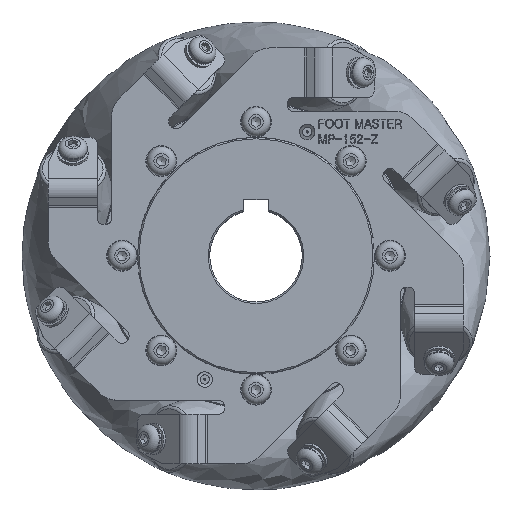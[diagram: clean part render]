
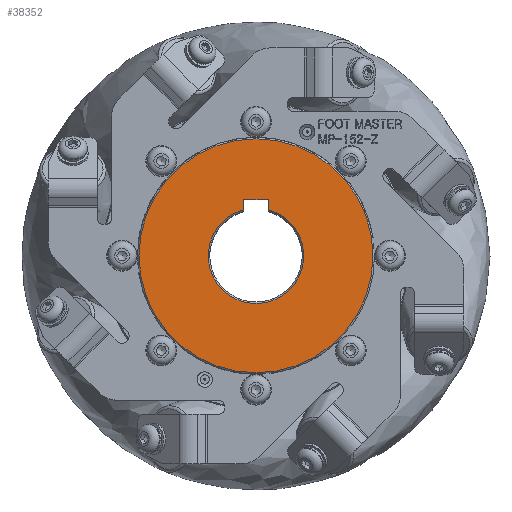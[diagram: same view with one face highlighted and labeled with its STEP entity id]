
A CAD part, top view. The second image highlights one B-rep face of the part: STEP entity #38352.
In plain terms, the highlighted planar face has unit normal (0, 0, 1).
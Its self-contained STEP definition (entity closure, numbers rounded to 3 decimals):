
#1711=CIRCLE('',#40727,15.5);
#1712=CIRCLE('',#40729,38.);
#2685=FACE_BOUND('',#6888,.T.);
#4604=FACE_OUTER_BOUND('',#6887,.T.);
#6887=EDGE_LOOP('',(#31395));
#6888=EDGE_LOOP('',(#31396,#31397,#31398,#31399));
#10749=LINE('',#65521,#13445);
#10752=LINE('',#65531,#13448);
#10756=LINE('',#65545,#13452);
#13445=VECTOR('',#46991,10.);
#13448=VECTOR('',#46996,10.);
#13452=VECTOR('',#47002,10.);
#17145=VERTEX_POINT('',#65516);
#17146=VERTEX_POINT('',#65520);
#17149=VERTEX_POINT('',#65530);
#17151=VERTEX_POINT('',#65536);
#17153=VERTEX_POINT('',#65549);
#22155=EDGE_CURVE('',#17146,#17145,#10749,.T.);
#22159=EDGE_CURVE('',#17149,#17146,#10752,.T.);
#22165=EDGE_CURVE('',#17151,#17149,#10756,.T.);
#22166=EDGE_CURVE('',#17151,#17145,#1711,.T.);
#22167=EDGE_CURVE('',#17153,#17153,#1712,.T.);
#31395=ORIENTED_EDGE('',*,*,#22167,.F.);
#31396=ORIENTED_EDGE('',*,*,#22166,.F.);
#31397=ORIENTED_EDGE('',*,*,#22165,.T.);
#31398=ORIENTED_EDGE('',*,*,#22159,.T.);
#31399=ORIENTED_EDGE('',*,*,#22155,.T.);
#36599=PLANE('',#40728);
#38352=ADVANCED_FACE('',(#4604,#2685),#36599,.T.);
#40727=AXIS2_PLACEMENT_3D('',#65547,#47005,#47006);
#40728=AXIS2_PLACEMENT_3D('',#65548,#47007,#47008);
#40729=AXIS2_PLACEMENT_3D('',#65550,#47009,#47010);
#46991=DIRECTION('',(0.,-1.,0.));
#46996=DIRECTION('',(1.,0.,0.));
#47002=DIRECTION('',(0.,1.,0.));
#47005=DIRECTION('center_axis',(0.,0.,
1.));
#47006=DIRECTION('ref_axis',(1.,0.,0.));
#47007=DIRECTION('center_axis',(0.,0.,
1.));
#47008=DIRECTION('ref_axis',(1.,0.,0.));
#47009=DIRECTION('center_axis',(0.,0.,
-1.));
#47010=DIRECTION('ref_axis',(-1.,0.,0.));
#65516=CARTESIAN_POINT('',(4.,14.975,40.));
#65520=CARTESIAN_POINT('',(4.,18.3,40.));
#65521=CARTESIAN_POINT('',(4.,9.15,40.));
#65530=CARTESIAN_POINT('',(-4.,18.3,40.));
#65531=CARTESIAN_POINT('',(-2.,18.3,40.));
#65536=CARTESIAN_POINT('',(-4.,14.975,40.));
#65545=CARTESIAN_POINT('',(-4.,7.228,40.));
#65547=CARTESIAN_POINT('Origin',(0.,0.,
40.));
#65548=CARTESIAN_POINT('Origin',(0.,0.,
40.));
#65549=CARTESIAN_POINT('',(38.,0.,40.));
#65550=CARTESIAN_POINT('Origin',(0.,0.,
40.));
